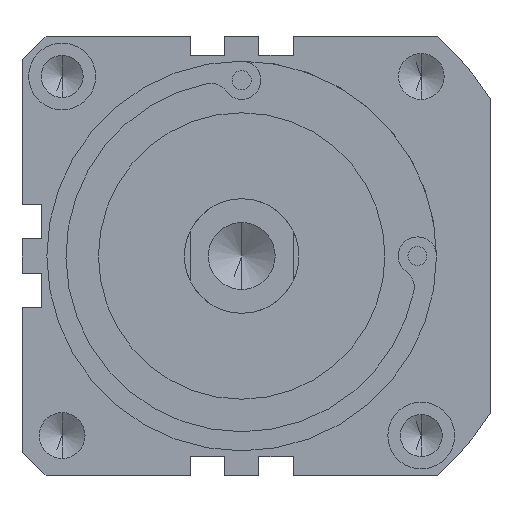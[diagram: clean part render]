
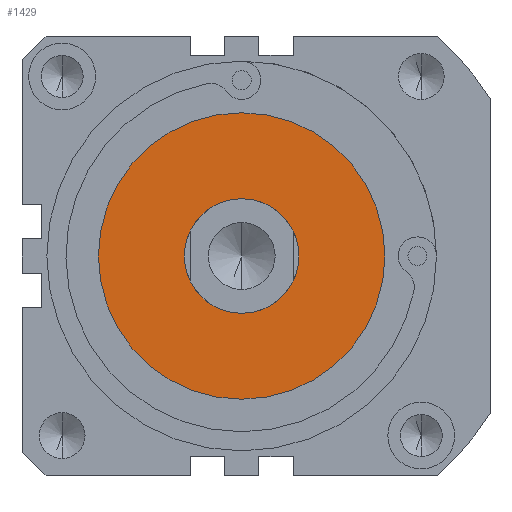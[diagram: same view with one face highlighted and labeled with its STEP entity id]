
A CAD part, front view. The second image highlights one B-rep face of the part: STEP entity #1429.
In plain terms, the highlighted planar face has unit normal (0, -1, 0) as drawn and (0, 1, 0) by its records, which use the part's own axes.
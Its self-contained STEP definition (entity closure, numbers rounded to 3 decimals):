
#53 = CARTESIAN_POINT ( 'NONE',  ( 0., 0., 0. ) ) ;
#94 = DIRECTION ( 'NONE',  ( 0., 1., 0. ) ) ;
#282 = ORIENTED_EDGE ( 'NONE', *, *, #2420, .T. ) ;
#283 = DIRECTION ( 'NONE',  ( 0., 1., 0. ) ) ;
#338 = DIRECTION ( 'NONE',  ( 0., 1., 0. ) ) ;
#369 = ORIENTED_EDGE ( 'NONE', *, *, #2076, .F. ) ;
#381 = FACE_BOUND ( 'NONE', #2716, .T. ) ;
#407 = CARTESIAN_POINT ( 'NONE',  ( 0., 0., -37.5 ) ) ;
#493 = EDGE_CURVE ( 'NONE', #1834, #2332, #627, .T. ) ;
#542 = AXIS2_PLACEMENT_3D ( 'NONE', #2344, #2861, #2604 ) ;
#627 = CIRCLE ( 'NONE', #2170, 15. ) ;
#668 = AXIS2_PLACEMENT_3D ( 'NONE', #1991, #94, #2771 ) ;
#768 = DIRECTION ( 'NONE',  ( 0., 1., 0. ) ) ;
#786 = CARTESIAN_POINT ( 'NONE',  ( 0., 0., 15. ) ) ;
#921 = CARTESIAN_POINT ( 'NONE',  ( 0., 0., -15. ) ) ;
#1131 = CIRCLE ( 'NONE', #1294, 37.5 ) ;
#1220 = CIRCLE ( 'NONE', #542, 37.5 ) ;
#1285 = VERTEX_POINT ( 'NONE', #407 ) ;
#1294 = AXIS2_PLACEMENT_3D ( 'NONE', #2112, #768, #2666 ) ;
#1429 = ADVANCED_FACE ( 'NONE', ( #2572, #381 ), #1710, .T. ) ;
#1467 = ORIENTED_EDGE ( 'NONE', *, *, #1939, .T. ) ;
#1644 = AXIS2_PLACEMENT_3D ( 'NONE', #53, #338, #1946 ) ;
#1710 = PLANE ( 'NONE',  #668 ) ;
#1834 = VERTEX_POINT ( 'NONE', #786 ) ;
#1895 = CARTESIAN_POINT ( 'NONE',  ( 0., 0., 0. ) ) ;
#1939 = EDGE_CURVE ( 'NONE', #3112, #1285, #1131, .T. ) ;
#1946 = DIRECTION ( 'NONE',  ( 0., 0., 1. ) ) ;
#1991 = CARTESIAN_POINT ( 'NONE',  ( 0., 0., 0. ) ) ;
#2005 = ORIENTED_EDGE ( 'NONE', *, *, #493, .F. ) ;
#2076 = EDGE_CURVE ( 'NONE', #2332, #1834, #3007, .T. ) ;
#2112 = CARTESIAN_POINT ( 'NONE',  ( 0., 0., 0. ) ) ;
#2170 = AXIS2_PLACEMENT_3D ( 'NONE', #1895, #283, #2683 ) ;
#2192 = CARTESIAN_POINT ( 'NONE',  ( 0., 0., 37.5 ) ) ;
#2332 = VERTEX_POINT ( 'NONE', #921 ) ;
#2344 = CARTESIAN_POINT ( 'NONE',  ( 0., 0., 0. ) ) ;
#2420 = EDGE_CURVE ( 'NONE', #1285, #3112, #1220, .T. ) ;
#2572 = FACE_OUTER_BOUND ( 'NONE', #3014, .T. ) ;
#2604 = DIRECTION ( 'NONE',  ( 0., 0., 1. ) ) ;
#2666 = DIRECTION ( 'NONE',  ( 0., 0., 1. ) ) ;
#2683 = DIRECTION ( 'NONE',  ( 0., 0., 1. ) ) ;
#2716 = EDGE_LOOP ( 'NONE', ( #369, #2005 ) ) ;
#2771 = DIRECTION ( 'NONE',  ( 0., 0., 1. ) ) ;
#2861 = DIRECTION ( 'NONE',  ( 0., 1., 0. ) ) ;
#3007 = CIRCLE ( 'NONE', #1644, 15. ) ;
#3014 = EDGE_LOOP ( 'NONE', ( #1467, #282 ) ) ;
#3112 = VERTEX_POINT ( 'NONE', #2192 ) ;
